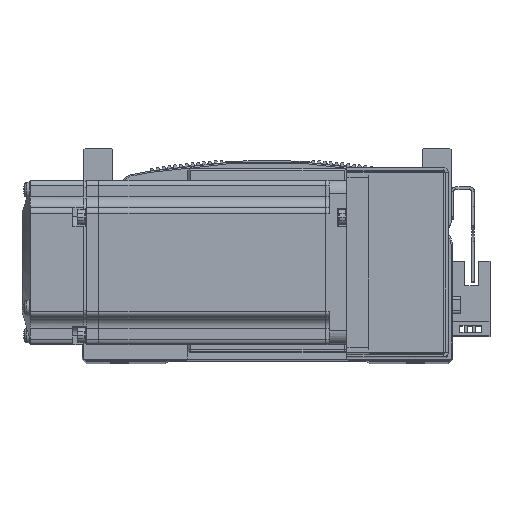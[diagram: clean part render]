
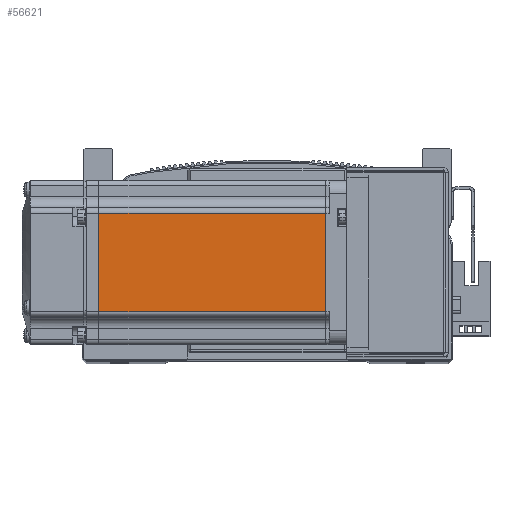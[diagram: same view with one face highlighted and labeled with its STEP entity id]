
A CAD part, top view. The second image highlights one B-rep face of the part: STEP entity #56621.
In plain terms, the highlighted planar face has unit normal (0, 0, 1) as drawn and (0, -1, 0) by its records, which use the part's own axes.
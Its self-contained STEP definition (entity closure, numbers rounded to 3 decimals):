
#639 = VERTEX_POINT ( 'NONE', #69220 ) ;
#650 = VERTEX_POINT ( 'NONE', #69248 ) ;
#653 = VERTEX_POINT ( 'NONE', #69174 ) ;
#720 = VERTEX_POINT ( 'NONE', #70588 ) ;
#6992 = VECTOR ( 'NONE', #57989, 1000. ) ;
#6996 = LINE ( 'NONE', #57992, #7026 ) ;
#7006 = LINE ( 'NONE', #58059, #7007 ) ;
#7007 = VECTOR ( 'NONE', #58082, 1000. ) ;
#7026 = VECTOR ( 'NONE', #57921, 1000. ) ;
#7033 = LINE ( 'NONE', #57982, #6992 ) ;
#7118 = VECTOR ( 'NONE', #58223, 1000. ) ;
#7135 = LINE ( 'NONE', #58196, #7118 ) ;
#9890 = EDGE_CURVE ( 'NONE', #653, #650, #6996, .T. ) ;
#9905 = EDGE_CURVE ( 'NONE', #720, #653, #7033, .T. ) ;
#9914 = EDGE_CURVE ( 'NONE', #720, #639, #7006, .T. ) ;
#9959 = EDGE_CURVE ( 'NONE', #639, #650, #7135, .T. ) ;
#17035 = AXIS2_PLACEMENT_3D ( 'NONE', #71090, #71113, #71137 ) ;
#24754 = FACE_OUTER_BOUND ( 'NONE', #65672, .T. ) ;
#56621 = ADVANCED_FACE ( 'NONE', ( #24754 ), #71121, .T. ) ;
#57921 = DIRECTION ( 'NONE',  ( -1., 0., 0. ) ) ;
#57982 = CARTESIAN_POINT ( 'NONE',  ( -7.75, -30., 0. ) ) ;
#57989 = DIRECTION ( 'NONE',  ( 0., 0., -1. ) ) ;
#57992 = CARTESIAN_POINT ( 'NONE',  ( -6.5, -30., -18. ) ) ;
#58059 = CARTESIAN_POINT ( 'NONE',  ( -6.5, -30., 18. ) ) ;
#58082 = DIRECTION ( 'NONE',  ( -1., 0., 0. ) ) ;
#58196 = CARTESIAN_POINT ( 'NONE',  ( -90.45, -30., 0. ) ) ;
#58223 = DIRECTION ( 'NONE',  ( 0., 0., -1. ) ) ;
#64699 = ORIENTED_EDGE ( 'NONE', *, *, #9914, .T. ) ;
#64701 = ORIENTED_EDGE ( 'NONE', *, *, #9890, .F. ) ;
#64704 = ORIENTED_EDGE ( 'NONE', *, *, #9905, .F. ) ;
#64720 = ORIENTED_EDGE ( 'NONE', *, *, #9959, .T. ) ;
#65672 = EDGE_LOOP ( 'NONE', ( #64704, #64699, #64720, #64701 ) ) ;
#69174 = CARTESIAN_POINT ( 'NONE',  ( -7.75, -30., -18. ) ) ;
#69220 = CARTESIAN_POINT ( 'NONE',  ( -90.45, -30., 18. ) ) ;
#69248 = CARTESIAN_POINT ( 'NONE',  ( -90.45, -30., -18. ) ) ;
#70588 = CARTESIAN_POINT ( 'NONE',  ( -7.75, -30., 18. ) ) ;
#71090 = CARTESIAN_POINT ( 'NONE',  ( -6.5, -30., -25. ) ) ;
#71113 = DIRECTION ( 'NONE',  ( 0., -1., 0. ) ) ;
#71121 = PLANE ( 'NONE',  #17035 ) ;
#71137 = DIRECTION ( 'NONE',  ( 0., 0., -1. ) ) ;
